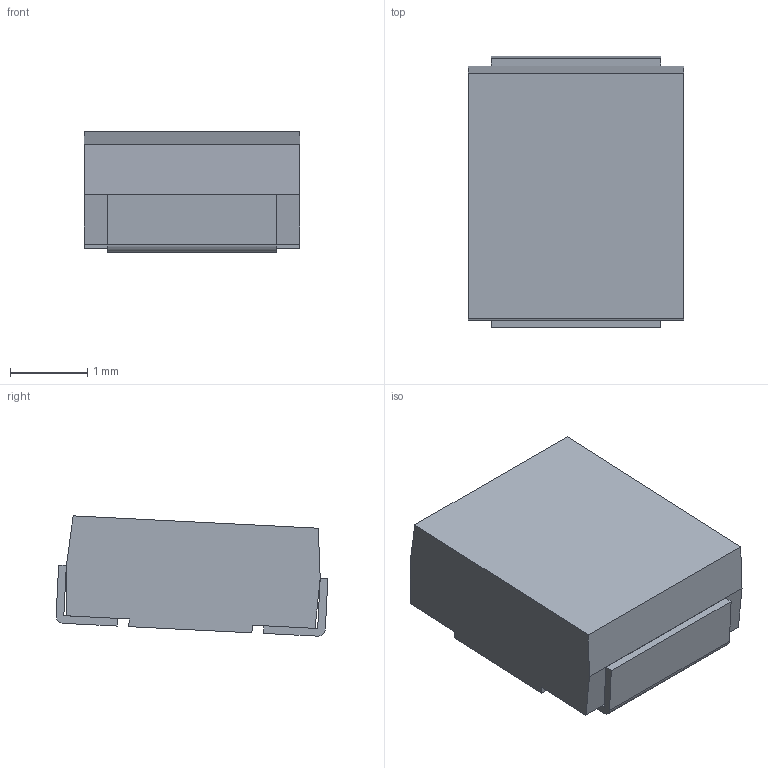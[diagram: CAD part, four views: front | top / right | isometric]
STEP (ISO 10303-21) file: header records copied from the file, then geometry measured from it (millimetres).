
FILE_DESCRIPTION(/* description */ (''),/* implementation_level */ '2;1');
FILE_NAME(/* name */ 'C:\Users\5146755\Documents\NVIDEA\STEPfile\B15G.stp',/* time_stamp */ '2016-06-13T11:19:47+09:00',/* author */ ('5146755'),/* organization */ (''),/* preprocessor_version */ 'ST-DEVELOPER v16.1',/* originating_system */ 'Autodesk Inventor 2016',/* authorisation */ '');
FILE_SCHEMA (('AUTOMOTIVE_DESIGN { 1 0 10303 214 3 1 1 }'));
Length unit declared in the file: millimetre
Products named in the file (3): mold-B15G; flame-B15G; B15G
Assembly tree (3 placements, depth 2):
  B15G
    mold-B15G
    flame-B15G  x2
Bounding box: 2.8 x 3.53 x 1.56 mm (x, y, z)
Volume: 12.9 mm3; surface area: 48.6 mm2
Topology: 3 solids, 3 shells, 30 faces, 72 edges, 48 vertices
Faces by surface type: plane 28, cylinder 2
Entity records: 699 total; most frequent: CARTESIAN_POINT 112, DIRECTION 107, ORIENTED_EDGE 102, EDGE_CURVE 51, LINE 49, VECTOR 49, VERTEX_POINT 34, AXIS2_PLACEMENT_3D 29
